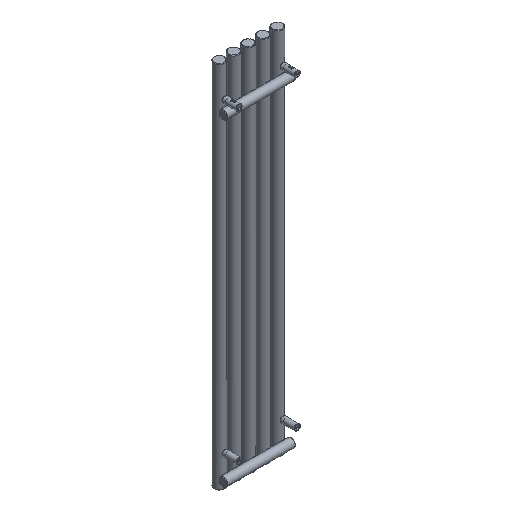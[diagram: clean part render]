
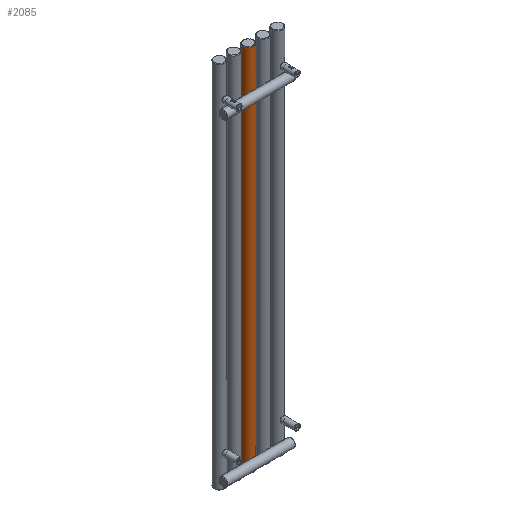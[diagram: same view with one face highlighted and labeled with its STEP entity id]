
A CAD part, isometric view. The second image highlights one B-rep face of the part: STEP entity #2085.
In plain terms, the highlighted cylindrical face has radius 20 mm (diameter 40 mm), a full revolution.
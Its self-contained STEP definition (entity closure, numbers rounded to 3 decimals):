
#169=FACE_BOUND('',#527,.T.);
#170=FACE_BOUND('',#528,.T.);
#199=LINE('',#3985,#273);
#273=VECTOR('',#2599,20.);
#347=CYLINDRICAL_SURFACE('',#2275,20.);
#381=FACE_OUTER_BOUND('',#526,.T.);
#526=EDGE_LOOP('',(#1470,#1471,#1472,#1473,#1474));
#527=EDGE_LOOP('',(#1475));
#528=EDGE_LOOP('',(#1476));
#692=B_SPLINE_CURVE_WITH_KNOTS('',3,(#3960,#3961,#3962,#3963,#3964,#3965,
#3966,#3967,#3968,#3969,#3970,#3971,#3972,#3973,#3974,#3975,#3976,#3977,
#3978,#3979),.UNSPECIFIED.,.T.,.F.,(4,1,1,1,1,1,1,1,1,1,1,1,1,1,1,1,1,4),
(-5.132,-4.765,-4.399,-3.91,
-3.666,-3.421,-3.177,-2.933,
-2.444,-2.322,-2.199,-1.955,
-1.711,-1.466,-1.1,-0.733,
-0.367,0.),.UNSPECIFIED.);
#693=B_SPLINE_CURVE_WITH_KNOTS('',3,(#3989,#3990,#3991,#3992,#3993,#3994,
#3995,#3996,#3997,#3998,#3999,#4000,#4001,#4002,#4003,#4004,#4005,#4006,
#4007,#4008),.UNSPECIFIED.,.T.,.F.,(4,1,1,1,1,1,1,1,1,1,1,1,1,1,1,1,1,4),
(-5.132,-4.765,-4.399,-4.154,
-3.91,-3.666,-3.421,-3.177,
-2.933,-2.444,-2.199,-1.955,-1.711,
-1.466,-1.1,-0.733,-0.367,
0.),.UNSPECIFIED.);
#749=CIRCLE('',#2276,20.);
#750=CIRCLE('',#2277,20.);
#751=CIRCLE('',#2278,20.);
#918=VERTEX_POINT('',#3958);
#919=VERTEX_POINT('',#3981);
#920=VERTEX_POINT('',#3982);
#921=VERTEX_POINT('',#3984);
#922=VERTEX_POINT('',#3988);
#1140=EDGE_CURVE('',#918,#918,#692,.T.);
#1141=EDGE_CURVE('',#919,#920,#749,.T.);
#1142=EDGE_CURVE('',#919,#921,#199,.T.);
#1143=EDGE_CURVE('',#921,#921,#750,.T.);
#1144=EDGE_CURVE('',#920,#919,#751,.T.);
#1145=EDGE_CURVE('',#922,#922,#693,.T.);
#1470=ORIENTED_EDGE('',*,*,#1141,.F.);
#1471=ORIENTED_EDGE('',*,*,#1142,.T.);
#1472=ORIENTED_EDGE('',*,*,#1143,.F.);
#1473=ORIENTED_EDGE('',*,*,#1142,.F.);
#1474=ORIENTED_EDGE('',*,*,#1144,.F.);
#1475=ORIENTED_EDGE('',*,*,#1145,.F.);
#1476=ORIENTED_EDGE('',*,*,#1140,.F.);
#2085=ADVANCED_FACE('',(#381,#169,#170),#347,.T.);
#2275=AXIS2_PLACEMENT_3D('',#3980,#2595,#2596);
#2276=AXIS2_PLACEMENT_3D('',#3983,#2597,#2598);
#2277=AXIS2_PLACEMENT_3D('',#3986,#2600,#2601);
#2278=AXIS2_PLACEMENT_3D('',#3987,#2602,#2603);
#2595=DIRECTION('center_axis',(0.,0.,1.));
#2596=DIRECTION('ref_axis',(-1.,0.,0.));
#2597=DIRECTION('center_axis',(0.,0.,1.));
#2598=DIRECTION('ref_axis',(-1.,0.,0.));
#2599=DIRECTION('',(0.,0.,-1.));
#2600=DIRECTION('center_axis',(0.,0.,-1.));
#2601=DIRECTION('ref_axis',(-1.,0.,0.));
#2602=DIRECTION('center_axis',(0.,0.,1.));
#2603=DIRECTION('ref_axis',(-1.,0.,0.));
#3958=CARTESIAN_POINT('',(-110.,-20.,50.1));
#3960=CARTESIAN_POINT('Ctrl Pts',(-110.,-20.,50.1));
#3961=CARTESIAN_POINT('Ctrl Pts',(-111.611,-20.,50.1));
#3962=CARTESIAN_POINT('Ctrl Pts',(-114.83,-19.61,49.58));
#3963=CARTESIAN_POINT('Ctrl Pts',(-119.319,-17.858,46.75));
#3964=CARTESIAN_POINT('Ctrl Pts',(-121.21,-16.549,41.99));
#3965=CARTESIAN_POINT('Ctrl Pts',(-120.866,-16.799,37.471));
#3966=CARTESIAN_POINT('Ctrl Pts',(-119.65,-17.551,34.432));
#3967=CARTESIAN_POINT('Ctrl Pts',(-117.534,-18.591,32.08));
#3968=CARTESIAN_POINT('Ctrl Pts',(-113.837,-19.818,30.087));
#3969=CARTESIAN_POINT('Ctrl Pts',(-109.97,-20.157,29.697));
#3970=CARTESIAN_POINT('Ctrl Pts',(-106.807,-19.763,30.226));
#3971=CARTESIAN_POINT('Ctrl Pts',(-104.776,-19.355,30.833));
#3972=CARTESIAN_POINT('Ctrl Pts',(-102.467,-18.591,32.083));
#3973=CARTESIAN_POINT('Ctrl Pts',(-100.35,-17.555,34.429));
#3974=CARTESIAN_POINT('Ctrl Pts',(-98.928,-16.663,37.98));
#3975=CARTESIAN_POINT('Ctrl Pts',(-98.922,-16.658,42.598));
#3976=CARTESIAN_POINT('Ctrl Pts',(-101.135,-18.048,47.029));
#3977=CARTESIAN_POINT('Ctrl Pts',(-105.165,-19.6,49.585));
#3978=CARTESIAN_POINT('Ctrl Pts',(-108.389,-20.,50.1));
#3979=CARTESIAN_POINT('Ctrl Pts',(-110.,-20.,50.1));
#3980=CARTESIAN_POINT('Origin',(-110.,0.,0.));
#3981=CARTESIAN_POINT('',(-90.,0.,1398.));
#3982=CARTESIAN_POINT('',(-130.,0.,1398.));
#3983=CARTESIAN_POINT('Origin',(-110.,0.,1398.));
#3984=CARTESIAN_POINT('',(-90.,0.,2.));
#3985=CARTESIAN_POINT('',(-90.,0.,0.));
#3986=CARTESIAN_POINT('Origin',(-110.,0.,2.));
#3987=CARTESIAN_POINT('Origin',(-110.,0.,1398.));
#3988=CARTESIAN_POINT('',(-110.,-20.,1255.1));
#3989=CARTESIAN_POINT('Ctrl Pts',(-110.,-20.,1255.1));
#3990=CARTESIAN_POINT('Ctrl Pts',(-111.611,-20.,1255.1));
#3991=CARTESIAN_POINT('Ctrl Pts',(-114.838,-19.598,1254.588));
#3992=CARTESIAN_POINT('Ctrl Pts',(-118.412,-18.225,1252.308));
#3993=CARTESIAN_POINT('Ctrl Pts',(-120.38,-17.114,1249.116));
#3994=CARTESIAN_POINT('Ctrl Pts',(-121.115,-16.626,1245.853));
#3995=CARTESIAN_POINT('Ctrl Pts',(-120.87,-16.793,1242.475));
#3996=CARTESIAN_POINT('Ctrl Pts',(-119.65,-17.555,1239.43));
#3997=CARTESIAN_POINT('Ctrl Pts',(-117.535,-18.589,1237.082));
#3998=CARTESIAN_POINT('Ctrl Pts',(-113.836,-19.821,1235.088));
#3999=CARTESIAN_POINT('Ctrl Pts',(-109.419,-20.203,1234.641));
#4000=CARTESIAN_POINT('Ctrl Pts',(-105.24,-19.504,1235.58));
#4001=CARTESIAN_POINT('Ctrl Pts',(-102.467,-18.593,1237.084));
#4002=CARTESIAN_POINT('Ctrl Pts',(-100.351,-17.554,1239.428));
#4003=CARTESIAN_POINT('Ctrl Pts',(-98.928,-16.664,1242.98));
#4004=CARTESIAN_POINT('Ctrl Pts',(-98.923,-16.659,1247.598));
#4005=CARTESIAN_POINT('Ctrl Pts',(-101.135,-18.048,1252.029));
#4006=CARTESIAN_POINT('Ctrl Pts',(-105.165,-19.6,1254.585));
#4007=CARTESIAN_POINT('Ctrl Pts',(-108.389,-20.,1255.1));
#4008=CARTESIAN_POINT('Ctrl Pts',(-110.,-20.,1255.1));
